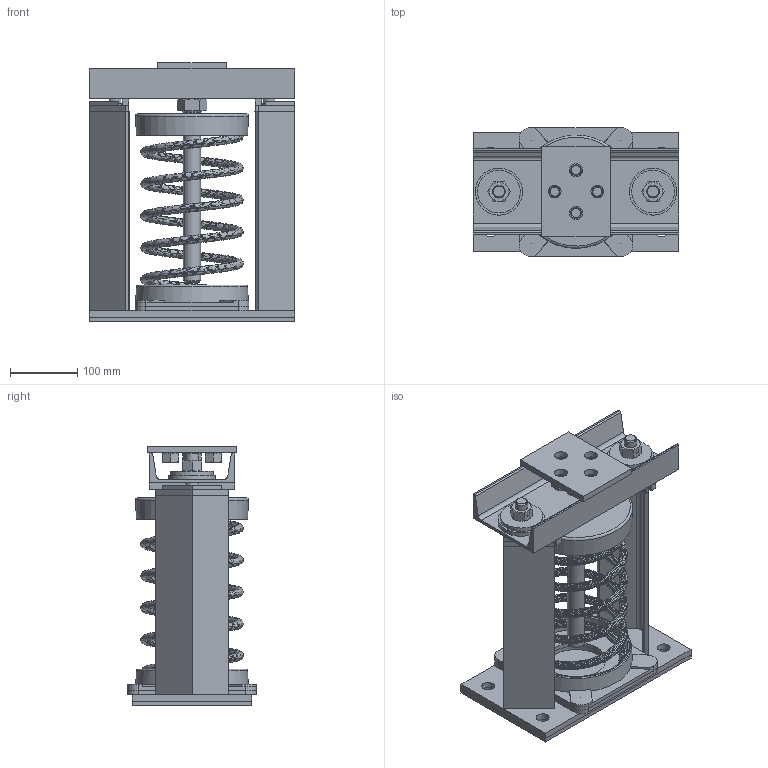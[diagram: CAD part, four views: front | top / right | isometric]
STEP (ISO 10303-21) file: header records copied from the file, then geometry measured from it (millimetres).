
FILE_DESCRIPTION(/* description */ (''),/* implementation_level */ '2;1');
FILE_NAME(/* name */ 'C:\001_Work\Designs\SLR-100 SERIES\SLR 100 SERIES (NON STOCK MOUNTS)\SLR 174-178\SLR-178.stp',/* time_stamp */ '2016-01-19T14:39:40-05:00',/* author */ ('rramoutar'),/* organization */ ('Mason Industries Inc.'),/* preprocessor_version */ 'ST-DEVELOPER v15.6',/* originating_system */ 'Autodesk Inventor 2015',/* authorisation */ '');
FILE_SCHEMA (('CONFIG_CONTROL_DESIGN'));
Length unit declared in the file: inch
Products named in the file (1): SLR-178 PER A-30438-1
Bounding box: 304.93 x 190.5 x 384.18 mm (x, y, z)
Volume: 3287279.7 mm3; surface area: 1095061.4 mm2
Topology: 31 solids, 31 shells, 546 faces, 1265 edges, 791 vertices
Faces by surface type: plane 310, cone 126, cylinder 82, bspline 22, torus 6
Full cylindrical faces by diameter (mm): 9.525 x2, 11.112 x1, 12.7 x4, 13.386 x4, 15.875 x4, 16.307 x2, 19.05 x14, 19.507 x2, 20.637 x4, 20.93 x1, 22.225 x1, 25.4 x1, 26.67 x1, 28.575 x2, 38.1 x3, 44.45 x4, 63.5 x2, 69.85 x2, 88.9 x2, 154.781 x1, 155.575 x1
Entity records: 25390 total; most frequent: CARTESIAN_POINT 13430, ORIENTED_EDGE 2286, DIRECTION 2242, EDGE_CURVE 1143, AXIS2_PLACEMENT_3D 850, VERTEX_POINT 757, EDGE_LOOP 716, STYLED_ITEM 577
